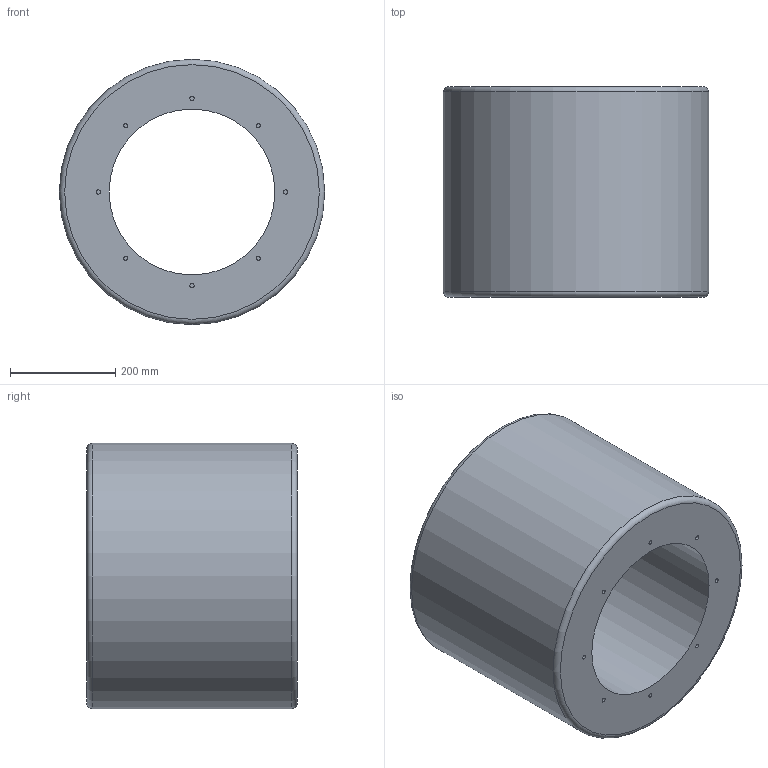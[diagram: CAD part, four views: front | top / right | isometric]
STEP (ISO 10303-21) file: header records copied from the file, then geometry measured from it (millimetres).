
FILE_DESCRIPTION(/* description */ (''),/* implementation_level */ '2;1');
FILE_NAME(/* name */ 'Z:\Output\RSD_315-400-08743-002.stp',/* time_stamp */ '2017-09-20T12:03:58+02:00',/* author */ ('Engineering1'),/* organization */ (''),/* preprocessor_version */ 'ST-DEVELOPER v16.5',/* originating_system */ 'Autodesk Inventor 2017',/* authorisation */ '');
FILE_SCHEMA (('AUTOMOTIVE_DESIGN { 1 0 10303 214 3 1 1 }'));
Length unit declared in the file: millimetre
Products named in the file (1): RSD-1
Bounding box: 504 x 400 x 504 mm (x, y, z)
Volume: 48553628.2 mm3; surface area: 1262671.5 mm2
Topology: 1 solids, 1 shells, 38 faces, 58 edges, 38 vertices
Faces by surface type: cylinder 18, plane 18, torus 2
Full cylindrical faces by diameter (mm): 8 x16, 315 x1, 504 x1
Entity records: 806 total; most frequent: DIRECTION 154, CARTESIAN_POINT 115, AXIS2_PLACEMENT_3D 77, EDGE_LOOP 76, ORIENTED_EDGE 76, FACE_BOUND 38, FACE_OUTER_BOUND 38, CIRCLE 38
